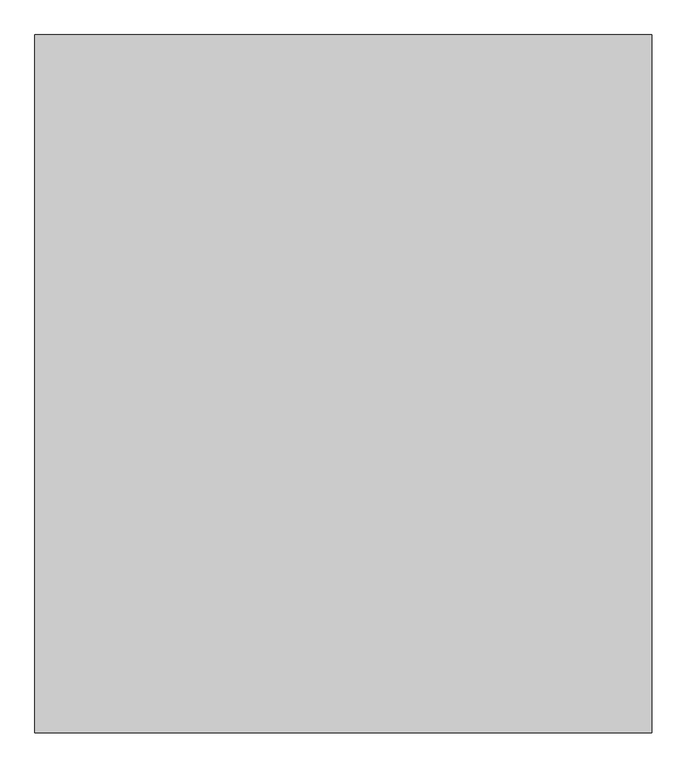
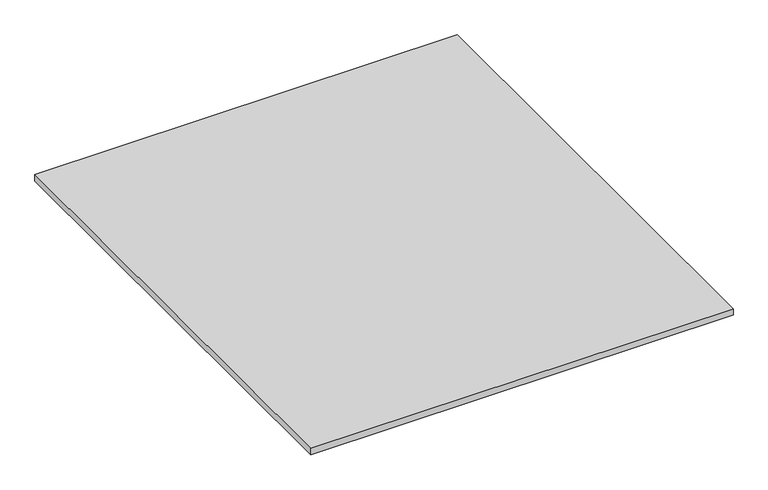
"""IFC4 building model written with IfcOpenShell, lengths in millimetres: proxy geometry, FOUNDATION^PO 3_WALL HUNG TACKBOARD-PARTS SOLID."""

from ifc_helpers import new_model, si_unit, origin, origin_with_axes, place, context, project, spatial, polyline, outline, extrude, source, transform, mapped, element, save


def generic_models_55264f2c(model_context):
    return source(origin(), model_context, "Body", "SweptSolid", [
        extrude(outline(polyline([(1199.35625, 1357.3125), (1199.35625, 0.0), (0.0, 0.0), (0.0, 1357.3125), (1199.35625, 1357.3125)])), origin_with_axes(), (0.0, 0.0, 1.0), 19.05),
    ])


if __name__ == "__main__":
    model = new_model("IFC4")
    model_context = context("Model", 3, world=origin())
    ifc_project = project(units=[si_unit("LENGTHUNIT", "METRE", prefix="MILLI")], contexts=[model_context])
    site = spatial("IfcSite", under=ifc_project)
    building = spatial("IfcBuilding", under=site)
    placement = place(None, origin())
    generic_models_shape = generic_models_55264f2c(model_context)
    element("IfcBuildingElementProxy", 1, Name="FOUNDATION^PO 3_WALL HUNG TACKBOARD-PARTS SOLID", ObjectType="FOUNDATION^PO 3_WALL HUNG TACKBOARD-PARTS SOLID", at=placement, inside=building, context=model_context, shape_type="MappedRepresentation", body=[
        mapped(generic_models_shape, transform((0.0, 0.0, 0.0), x_axis=(1.0, 0.0, 0.0), y_axis=(0.0, 1.0, 0.0), z_axis=(0.0, 0.0, 1.0))),
    ])
    save(model, "model.ifc")
